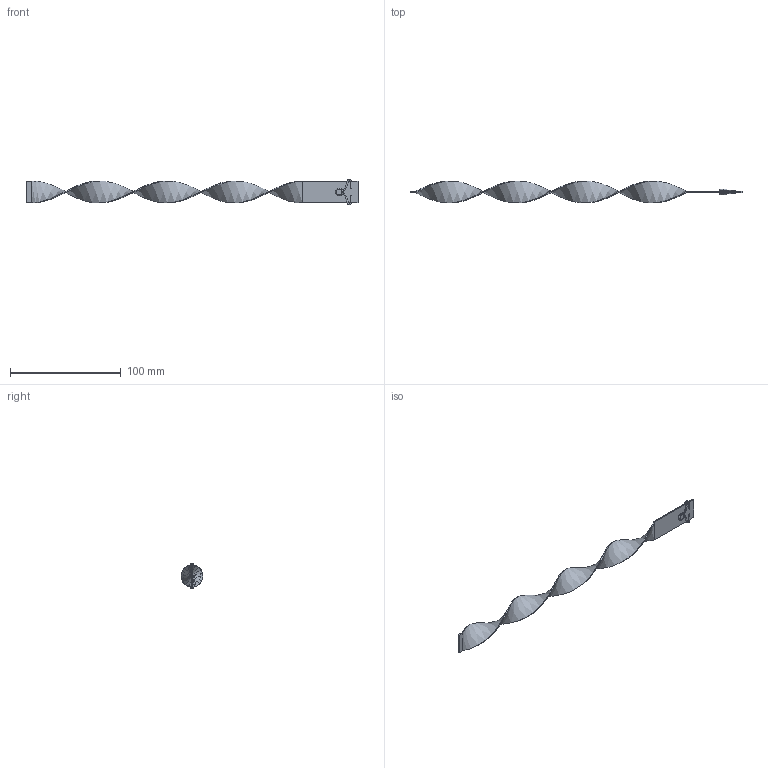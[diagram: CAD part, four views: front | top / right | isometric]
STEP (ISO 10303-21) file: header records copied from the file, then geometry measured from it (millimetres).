
FILE_DESCRIPTION (( 'STEP AP203' ), '1' );
FILE_NAME ('RLAS-20x300.STEP', '2016-02-12T07:17:26', ( 'Balzi' ), ( '' ), 'SwSTEP 2.0', 'SolidWorks 2015', '' );
FILE_SCHEMA (( 'CONFIG_CONTROL_DESIGN' ));
Length unit declared in the file: millimetre
Products named in the file (1): RLAS-20x300
Bounding box: 300 x 19.7 x 22.99 mm (x, y, z)
Volume: 6086.5 mm3; surface area: 13447.8 mm2
Topology: 5 solids, 5 shells, 92 faces, 178 edges, 96 vertices
Faces by surface type: torus 40, cylinder 30, plane 18, bspline 4
Entity records: 4095 total; most frequent: CARTESIAN_POINT 2099, DIRECTION 472, ORIENTED_EDGE 356, AXIS2_PLACEMENT_3D 209, EDGE_CURVE 178, CIRCLE 120, VERTEX_POINT 96, EDGE_LOOP 94
